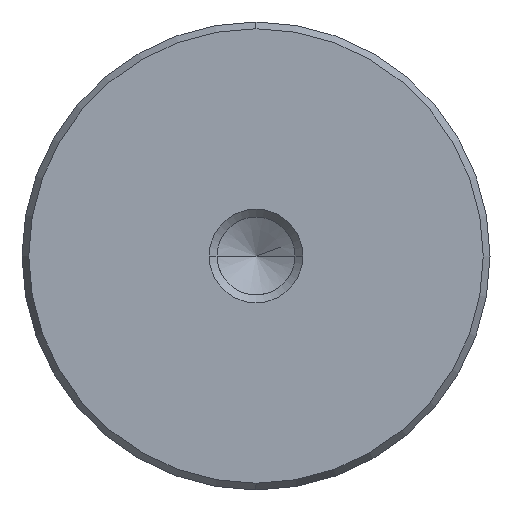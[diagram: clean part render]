
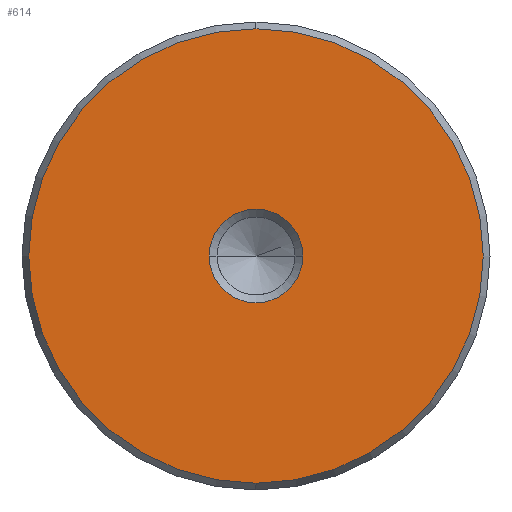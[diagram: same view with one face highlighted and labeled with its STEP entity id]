
A CAD part, left-side view. The second image highlights one B-rep face of the part: STEP entity #614.
In plain terms, the highlighted planar face has unit normal (-1, 0, 0).
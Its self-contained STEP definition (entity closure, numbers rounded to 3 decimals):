
#528=CARTESIAN_POINT('Vertex',(0.,0.,-19.423)) ;
#531=CARTESIAN_POINT('Axis2P3D Location',(0.,0.,0.)) ;
#535=CARTESIAN_POINT('Vertex',(0.,19.423,0.)) ;
#538=CARTESIAN_POINT('Axis2P3D Location',(0.,0.,0.)) ;
#542=CARTESIAN_POINT('Vertex',(0.,0.,19.423)) ;
#564=CARTESIAN_POINT('Axis2P3D Location',(0.,0.,0.)) ;
#568=CARTESIAN_POINT('Vertex',(0.,-19.423,0.)) ;
#571=CARTESIAN_POINT('Axis2P3D Location',(0.,0.,0.)) ;
#585=CARTESIAN_POINT('Axis2P3D Location',(0.,0.,0.)) ;
#596=CARTESIAN_POINT('Axis2P3D Location',(0.,0.,0.)) ;
#600=CARTESIAN_POINT('Vertex',(0.,4.,0.)) ;
#602=CARTESIAN_POINT('Vertex',(0.,-4.,0.)) ;
#605=CARTESIAN_POINT('Axis2P3D Location',(0.,0.,0.)) ;
#532=DIRECTION('Axis2P3D Direction',(1.,0.,-0.)) ;
#539=DIRECTION('Axis2P3D Direction',(1.,0.,-0.)) ;
#565=DIRECTION('Axis2P3D Direction',(1.,0.,-0.)) ;
#572=DIRECTION('Axis2P3D Direction',(1.,0.,-0.)) ;
#586=DIRECTION('Axis2P3D Direction',(1.,0.,-0.)) ;
#587=DIRECTION('Axis2P3D XDirection',(-0.,0.,-1.)) ;
#597=DIRECTION('Axis2P3D Direction',(1.,0.,-0.)) ;
#606=DIRECTION('Axis2P3D Direction',(1.,0.,-0.)) ;
#533=AXIS2_PLACEMENT_3D('Circle Axis2P3D',#531,#532,$) ;
#540=AXIS2_PLACEMENT_3D('Circle Axis2P3D',#538,#539,$) ;
#566=AXIS2_PLACEMENT_3D('Circle Axis2P3D',#564,#565,$) ;
#573=AXIS2_PLACEMENT_3D('Circle Axis2P3D',#571,#572,$) ;
#588=AXIS2_PLACEMENT_3D('Plane Axis2P3D',#585,#586,#587) ;
#598=AXIS2_PLACEMENT_3D('Circle Axis2P3D',#596,#597,$) ;
#607=AXIS2_PLACEMENT_3D('Circle Axis2P3D',#605,#606,$) ;
#591=ORIENTED_EDGE('',*,*,#537,.F.) ;
#592=ORIENTED_EDGE('',*,*,#575,.F.) ;
#593=ORIENTED_EDGE('',*,*,#570,.F.) ;
#594=ORIENTED_EDGE('',*,*,#544,.F.) ;
#611=ORIENTED_EDGE('',*,*,#604,.T.) ;
#612=ORIENTED_EDGE('',*,*,#609,.T.) ;
#613=FACE_BOUND('',#610,.T.) ;
#614=ADVANCED_FACE('720-40x180',(#595,#613),#589,.F.) ;
#534=CIRCLE('generated circle',#533,19.423) ;
#541=CIRCLE('generated circle',#540,19.423) ;
#567=CIRCLE('generated circle',#566,19.423) ;
#574=CIRCLE('generated circle',#573,19.423) ;
#599=CIRCLE('generated circle',#598,4.) ;
#608=CIRCLE('generated circle',#607,4.) ;
#537=EDGE_CURVE('',#529,#536,#534,.T.) ;
#544=EDGE_CURVE('',#536,#543,#541,.T.) ;
#570=EDGE_CURVE('',#543,#569,#567,.T.) ;
#575=EDGE_CURVE('',#569,#529,#574,.T.) ;
#604=EDGE_CURVE('',#601,#603,#599,.T.) ;
#609=EDGE_CURVE('',#603,#601,#608,.T.) ;
#590=EDGE_LOOP('',(#591,#592,#593,#594)) ;
#610=EDGE_LOOP('',(#611,#612)) ;
#595=FACE_OUTER_BOUND('',#590,.T.) ;
#589=PLANE('Plane',#588) ;
#529=VERTEX_POINT('',#528) ;
#536=VERTEX_POINT('',#535) ;
#543=VERTEX_POINT('',#542) ;
#569=VERTEX_POINT('',#568) ;
#601=VERTEX_POINT('',#600) ;
#603=VERTEX_POINT('',#602) ;
